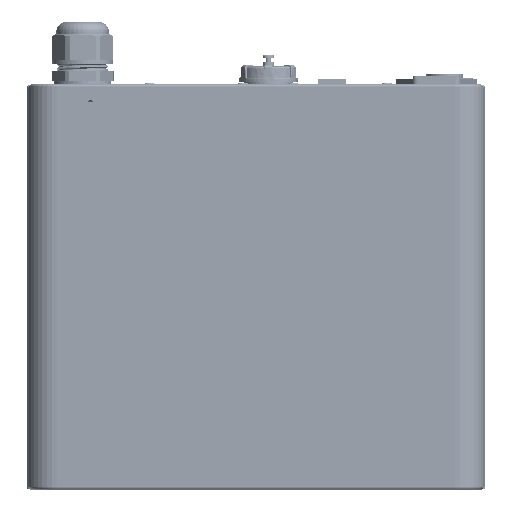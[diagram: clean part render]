
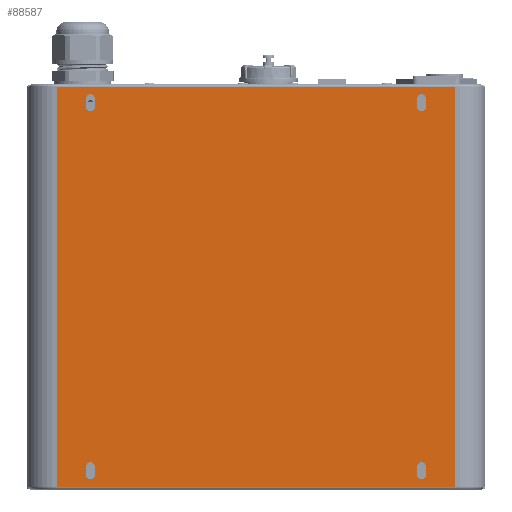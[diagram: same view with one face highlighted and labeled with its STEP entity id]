
A CAD part, top view. The second image highlights one B-rep face of the part: STEP entity #88587.
In plain terms, the highlighted planar face has unit normal (0, 0, 1).
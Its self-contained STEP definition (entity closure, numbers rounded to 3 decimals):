
#50728=LINE('',#298822,#70332);
#50733=LINE('',#298837,#70337);
#50737=LINE('',#298852,#70341);
#50741=LINE('',#298861,#70345);
#50744=LINE('',#298870,#70348);
#50748=LINE('',#298879,#70352);
#50752=LINE('',#298894,#70356);
#50756=LINE('',#298903,#70360);
#50814=LINE('',#299077,#70418);
#50828=LINE('',#299126,#70432);
#50829=LINE('',#299130,#70433);
#50830=LINE('',#299132,#70434);
#70332=VECTOR('',#247874,1.);
#70337=VECTOR('',#247887,1.);
#70341=VECTOR('',#247905,1.);
#70345=VECTOR('',#247911,1.);
#70348=VECTOR('',#247922,1.);
#70352=VECTOR('',#247928,1.);
#70356=VECTOR('',#247946,1.);
#70360=VECTOR('',#247952,1.);
#70418=VECTOR('',#248124,1.);
#70432=VECTOR('',#248166,1.);
#70433=VECTOR('',#248171,1.);
#70434=VECTOR('',#248172,1.);
#88587=ADVANCED_FACE('',(#106243,#106244,#106245,#106246,#106247),#97947,
 .T.);
#97947=PLANE('',#227017);
#106243=FACE_BOUND('',#109421,.T.);
#106244=FACE_BOUND('',#109422,.T.);
#106245=FACE_BOUND('',#109423,.T.);
#106246=FACE_BOUND('',#109424,.T.);
#106247=FACE_BOUND('',#109425,.T.);
#109421=EDGE_LOOP('',(#128370,#128371,#128372,#128373));
#109422=EDGE_LOOP('',(#128374,#128375,#128376,#128377));
#109423=EDGE_LOOP('',(#128378,#128379,#128380,#128381));
#109424=EDGE_LOOP('',(#128382,#128383,#128384,#128385));
#109425=EDGE_LOOP('',(#128386,#128387,#128388,#128389));
#128370=ORIENTED_EDGE('',*,*,#196265,.F.);
#128371=ORIENTED_EDGE('',*,*,#196267,.F.);
#128372=ORIENTED_EDGE('',*,*,#196261,.F.);
#128373=ORIENTED_EDGE('',*,*,#196258,.F.);
#128374=ORIENTED_EDGE('',*,*,#196253,.F.);
#128375=ORIENTED_EDGE('',*,*,#196255,.F.);
#128376=ORIENTED_EDGE('',*,*,#196246,.F.);
#128377=ORIENTED_EDGE('',*,*,#196250,.F.);
#128378=ORIENTED_EDGE('',*,*,#196270,.F.);
#128379=ORIENTED_EDGE('',*,*,#196277,.F.);
#128380=ORIENTED_EDGE('',*,*,#196274,.F.);
#128381=ORIENTED_EDGE('',*,*,#196279,.F.);
#128382=ORIENTED_EDGE('',*,*,#196282,.F.);
#128383=ORIENTED_EDGE('',*,*,#196289,.F.);
#128384=ORIENTED_EDGE('',*,*,#196286,.F.);
#128385=ORIENTED_EDGE('',*,*,#196291,.F.);
#128386=ORIENTED_EDGE('',*,*,#196400,.F.);
#128387=ORIENTED_EDGE('',*,*,#196373,.F.);
#128388=ORIENTED_EDGE('',*,*,#196398,.T.);
#128389=ORIENTED_EDGE('',*,*,#196401,.T.);
#176454=VERTEX_POINT('',#298820);
#176456=VERTEX_POINT('',#298823);
#176458=VERTEX_POINT('',#298829);
#176460=VERTEX_POINT('',#298835);
#176462=VERTEX_POINT('',#298844);
#176464=VERTEX_POINT('',#298847);
#176466=VERTEX_POINT('',#298853);
#176468=VERTEX_POINT('',#298859);
#176470=VERTEX_POINT('',#298868);
#176472=VERTEX_POINT('',#298871);
#176474=VERTEX_POINT('',#298877);
#176476=VERTEX_POINT('',#298880);
#176478=VERTEX_POINT('',#298892);
#176480=VERTEX_POINT('',#298895);
#176482=VERTEX_POINT('',#298901);
#176484=VERTEX_POINT('',#298904);
#176542=VERTEX_POINT('',#299076);
#176543=VERTEX_POINT('',#299078);
#176564=VERTEX_POINT('',#299127);
#176565=VERTEX_POINT('',#299131);
#196246=EDGE_CURVE('',#176454,#176456,#50728,.T.);
#196250=EDGE_CURVE('',#176458,#176454,#219848,.T.);
#196253=EDGE_CURVE('',#176460,#176458,#50733,.T.);
#196255=EDGE_CURVE('',#176456,#176460,#219850,.T.);
#196258=EDGE_CURVE('',#176462,#176464,#219852,.T.);
#196261=EDGE_CURVE('',#176464,#176466,#50737,.T.);
#196265=EDGE_CURVE('',#176468,#176462,#50741,.T.);
#196267=EDGE_CURVE('',#176466,#176468,#219854,.T.);
#196270=EDGE_CURVE('',#176470,#176472,#50744,.T.);
#196274=EDGE_CURVE('',#176474,#176476,#50748,.T.);
#196277=EDGE_CURVE('',#176476,#176470,#219856,.T.);
#196279=EDGE_CURVE('',#176472,#176474,#219858,.T.);
#196282=EDGE_CURVE('',#176478,#176480,#50752,.T.);
#196286=EDGE_CURVE('',#176482,#176484,#50756,.T.);
#196289=EDGE_CURVE('',#176484,#176478,#219860,.T.);
#196291=EDGE_CURVE('',#176480,#176482,#219862,.T.);
#196373=EDGE_CURVE('',#176542,#176543,#50814,.T.);
#196398=EDGE_CURVE('',#176542,#176564,#50828,.T.);
#196400=EDGE_CURVE('',#176543,#176565,#50829,.T.);
#196401=EDGE_CURVE('',#176564,#176565,#50830,.T.);
#219848=CIRCLE('',#226920,2.75);
#219850=CIRCLE('',#226924,2.75);
#219852=CIRCLE('',#226927,2.75);
#219854=CIRCLE('',#226932,2.75);
#219856=CIRCLE('',#226937,2.75);
#219858=CIRCLE('',#226940,2.75);
#219860=CIRCLE('',#226945,2.75);
#219862=CIRCLE('',#226948,2.75);
#226920=AXIS2_PLACEMENT_3D('',#298831,#247880,#247881);
#226924=AXIS2_PLACEMENT_3D('',#298840,#247891,#247892);
#226927=AXIS2_PLACEMENT_3D('',#298846,#247898,#247899);
#226932=AXIS2_PLACEMENT_3D('',#298864,#247915,#247916);
#226937=AXIS2_PLACEMENT_3D('',#298885,#247933,#247934);
#226940=AXIS2_PLACEMENT_3D('',#298888,#247939,#247940);
#226945=AXIS2_PLACEMENT_3D('',#298909,#247957,#247958);
#226948=AXIS2_PLACEMENT_3D('',#298912,#247963,#247964);
#227017=AXIS2_PLACEMENT_3D('',#299133,#248173,#248174);
#247874=DIRECTION('',(0.,1.,0.));
#247880=DIRECTION('',(0.,0.,1.));
#247881=DIRECTION('',(1.,0.,0.));
#247887=DIRECTION('',(0.,-1.,0.));
#247891=DIRECTION('',(0.,0.,1.));
#247892=DIRECTION('',(1.,0.,0.));
#247898=DIRECTION('',(0.,0.,1.));
#247899=DIRECTION('',(1.,0.,0.));
#247905=DIRECTION('',(0.,1.,0.));
#247911=DIRECTION('',(0.,-1.,0.));
#247915=DIRECTION('',(0.,0.,1.));
#247916=DIRECTION('',(1.,0.,0.));
#247922=DIRECTION('',(0.,-1.,0.));
#247928=DIRECTION('',(0.,1.,0.));
#247933=DIRECTION('',(0.,0.,1.));
#247934=DIRECTION('',(1.,0.,0.));
#247939=DIRECTION('',(0.,0.,1.));
#247940=DIRECTION('',(1.,0.,0.));
#247946=DIRECTION('',(0.,-1.,0.));
#247952=DIRECTION('',(0.,1.,0.));
#247957=DIRECTION('',(0.,0.,1.));
#247958=DIRECTION('',(1.,0.,0.));
#247963=DIRECTION('',(0.,0.,1.));
#247964=DIRECTION('',(1.,0.,0.));
#248124=DIRECTION('',(1.,0.,0.));
#248166=DIRECTION('',(0.,-1.,0.));
#248171=DIRECTION('',(0.,-1.,0.));
#248172=DIRECTION('',(1.,0.,0.));
#248173=DIRECTION('',(0.,0.,1.));
#248174=DIRECTION('',(-1.,0.,0.));
#298820=CARTESIAN_POINT('',(68.25,168.311,-29.9));
#298822=CARTESIAN_POINT('',(68.25,189.284,-29.9));
#298823=CARTESIAN_POINT('',(68.25,173.056,-29.9));
#298829=CARTESIAN_POINT('',(62.75,168.311,-29.9));
#298831=CARTESIAN_POINT('',(65.5,168.311,-29.9));
#298835=CARTESIAN_POINT('',(62.75,173.056,-29.9));
#298837=CARTESIAN_POINT('',(62.75,189.284,-29.9));
#298840=CARTESIAN_POINT('',(65.5,173.056,-29.9));
#298844=CARTESIAN_POINT('',(-135.25,168.311,-29.9));
#298846=CARTESIAN_POINT('',(-132.5,168.311,-29.9));
#298847=CARTESIAN_POINT('',(-129.75,168.311,-29.9));
#298852=CARTESIAN_POINT('',(-129.75,189.284,-29.9));
#298853=CARTESIAN_POINT('',(-129.75,173.056,-29.9));
#298859=CARTESIAN_POINT('',(-135.25,173.056,-29.9));
#298861=CARTESIAN_POINT('',(-135.25,189.284,-29.9));
#298864=CARTESIAN_POINT('',(-132.5,173.056,-29.9));
#298868=CARTESIAN_POINT('',(62.75,393.154,-29.9));
#298870=CARTESIAN_POINT('',(62.75,130.284,-29.9));
#298871=CARTESIAN_POINT('',(62.75,388.409,-29.9));
#298877=CARTESIAN_POINT('',(68.25,388.409,-29.9));
#298879=CARTESIAN_POINT('',(68.25,130.284,-29.9));
#298880=CARTESIAN_POINT('',(68.25,393.154,-29.9));
#298885=CARTESIAN_POINT('',(65.5,393.154,-29.9));
#298888=CARTESIAN_POINT('',(65.5,388.409,-29.9));
#298892=CARTESIAN_POINT('',(-135.25,393.154,-29.9));
#298894=CARTESIAN_POINT('',(-135.25,130.284,-29.9));
#298895=CARTESIAN_POINT('',(-135.25,388.409,-29.9));
#298901=CARTESIAN_POINT('',(-129.75,388.409,-29.9));
#298903=CARTESIAN_POINT('',(-129.75,130.284,-29.9));
#298904=CARTESIAN_POINT('',(-129.75,393.154,-29.9));
#298909=CARTESIAN_POINT('',(-132.5,393.154,-29.9));
#298912=CARTESIAN_POINT('',(-132.5,388.409,-29.9));
#299076=CARTESIAN_POINT('',(-152.5,400.282,-29.9));
#299077=CARTESIAN_POINT('',(6.1,400.282,-29.9));
#299078=CARTESIAN_POINT('',(85.5,400.282,-29.9));
#299126=CARTESIAN_POINT('',(-152.5,341.284,-29.9));
#299127=CARTESIAN_POINT('',(-152.5,161.184,-29.9));
#299130=CARTESIAN_POINT('',(85.5,341.284,-29.9));
#299131=CARTESIAN_POINT('',(85.5,161.184,-29.9));
#299132=CARTESIAN_POINT('',(21.1,161.184,-29.9));
#299133=CARTESIAN_POINT('',(-166.4,130.284,-29.9));
